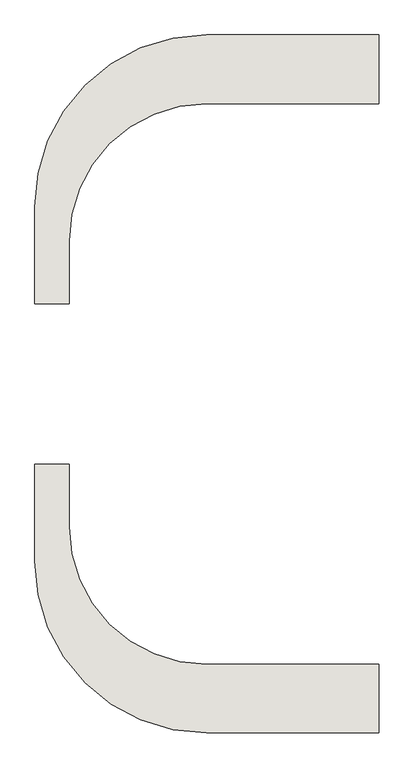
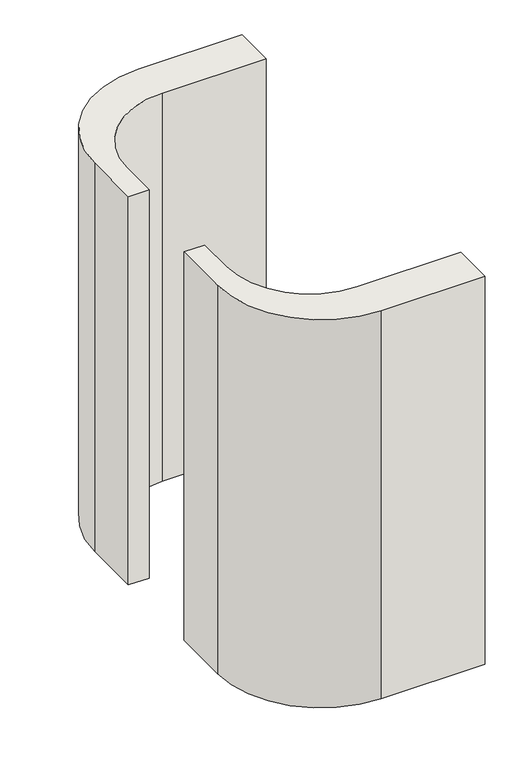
"""IFC4 building model written with IfcOpenShell, lengths in millimetres: wall geometry, Murs 1 : Murs 1."""

from ifc_helpers import new_model, si_unit, frame, origin, place, context, project, spatial, polyline, circle_curve, source, transform, mapped, element, save
from ifc_brep_helpers import plane_surface, cylinder_surface, revolved_surface, advanced_brep


def wall_421f56db(model_context):
    return source(origin(), model_context, "Body", "AdvancedBrep", [
        advanced_brep(
        [(-3226.9983846, -1250.6566666, 3871.8727639), (-3226.9983846, -950.6566667, 3871.8727639), (-3982.5449051, -950.6566667, 3871.8727639), (-4732.5449041, -1700.6566658, 3871.8727639), (-4732.5449041, -2125.6566689, 3871.8727639), (-4582.5449037, -2125.6566689, 3871.8727639), (-4582.5449037, -1850.6566679, 3871.8727639), (-3982.5449024, -1250.6566666, 3871.8727639), (-3226.9983846, -1250.6566666, 893.3082742), (-3982.5449024, -1250.6566666, 893.3082742), (-4582.5449037, -1850.6566679, 893.3082742), (-4582.5449037, -2125.6566689, 893.3082742), (-4732.5449041, -2125.6566689, 893.3082742), (-4732.5449041, -1700.6566658, 893.3082742), (-3982.5449051, -950.6566667, 893.3082742), (-3226.9983846, -950.6566667, 893.3082742)],
        [
            (0, 1),
            (1, 2),
            (2, 3, circle_curve(frame((-3982.5449051, -1700.6566658, 3871.8727639), z_axis=(0.0, 0.0, 1.0), x_axis=(0.0, 1.0, 0.0)), 749.999999)),
            (3, 4),
            (4, 5),
            (5, 6),
            (6, 7, circle_curve(frame((-3982.5449024, -1850.6566679, 3871.8727639), z_axis=(0.0, 0.0, -1.0), x_axis=(0.0, 1.0, 0.0)), 600.0000013)),
            (7, 0),
            (8, 9),
            (9, 10, circle_curve(frame((-3982.5449024, -1850.6566679, 893.3082742), z_axis=(0.0, 0.0, 1.0), x_axis=(0.0, 1.0, 0.0)), 600.0000013)),
            (10, 11),
            (11, 12),
            (12, 13),
            (13, 14, circle_curve(frame((-3982.5449051, -1700.6566658, 893.3082742), z_axis=(0.0, 0.0, -1.0), x_axis=(0.0, 1.0, 0.0)), 749.999999)),
            (14, 15),
            (15, 8),
            (0, 8),
            (15, 1),
            (14, 2),
            (13, 3),
            (12, 4),
            (11, 5),
            (10, 6),
            (9, 7),
        ],
        [
            plane_surface(frame((-3226.9983846, -1250.6566666, 3871.8727639), z_axis=(0.0, 0.0, 1.0), x_axis=(0.0, 1.0, 0.0))),
            plane_surface(frame((-3226.9983846, -1250.6566666, 893.3082742), z_axis=(0.0, 0.0, -1.0), x_axis=(0.0, -1.0, 0.0))),
            plane_surface(frame((-3226.9983846, -1250.6566666, 3871.8727639), z_axis=(1.0, 0.0, 0.0), x_axis=(0.0, 0.0, -1.0))),
            plane_surface(frame((-3226.9983846, -950.6566667, 3871.8727639), z_axis=(0.0, 1.0, 0.0), x_axis=(0.0, 0.0, -1.0))),
            cylinder_surface(frame((-3982.5449051, -1700.6566658, 893.3082742), z_axis=(0.0, 0.0, 1.0), x_axis=(0.0, 1.0, 0.0)), 749.999999),
            plane_surface(frame((-4732.5449041, -1700.6566658, 3871.8727639), z_axis=(-1.0, 0.0, 0.0), x_axis=(0.0, 0.0, -1.0))),
            plane_surface(frame((-4732.5449041, -2125.6566689, 3871.8727639), z_axis=(0.0, -1.0, 0.0), x_axis=(0.0, 0.0, -1.0))),
            plane_surface(frame((-4582.5449037, -2125.6566689, 3871.8727639), z_axis=(1.0, 0.0, 0.0), x_axis=(0.0, 0.0, -1.0))),
            revolved_surface(polyline([(-3982.5449024, -1250.6566665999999, 893.3082742), (-3982.5449024, -1250.6566665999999, 3871.8727639)]), (-3982.5449024, -1850.6566679, 893.3082742), (0.0, 0.0, -1.0)),
            plane_surface(frame((-3982.5449024, -1250.6566666, 3871.8727639), z_axis=(0.0, -1.0, 0.0), x_axis=(0.0, 0.0, -1.0))),
        ],
        [
            (0, [[1, 2, 3, 4, 5, 6, 7, 8]]),
            (1, [[9, 10, 11, 12, 13, 14, 15, 16]]),
            (2, [[-1, 17, -16, 18]]),
            (3, [[-2, -18, -15, 19]]),
            (4, [[-3, -19, -14, 20]]),
            (5, [[-4, -20, -13, 21]]),
            (6, [[-5, -21, -12, 22]]),
            (7, [[-6, -22, -11, 23]]),
            (8, [[-7, -23, -10, 24]]),
            (9, [[-8, -24, -9, -17]]),
        ],
    ),
        advanced_brep(
        [(-3982.5449019, -3700.6566667, 3871.8727639), (-4582.5449037, -3100.656665, 3871.8727639), (-4582.5449037, -2825.6566621, 3871.8727639), (-4732.5449059, -2825.6566621, 3871.8727639), (-4732.5449059, -3250.6566678, 3871.8727639), (-3982.5449097, -4000.6566661, 3871.8727639), (-3226.9983901, -4000.6566675, 3871.8727639), (-3226.9983901, -3700.6566667, 3871.8727639), (-3982.5449019, -3700.6566667, 893.3082742), (-3226.9983901, -3700.6566667, 893.3082742), (-3226.9983901, -4000.6566675, 893.3082742), (-3982.5449097, -4000.6566675, 893.3082742), (-4732.5449059, -3250.6566678, 893.3082742), (-4732.5449059, -2825.6566621, 893.3082742), (-4582.5449037, -2825.6566621, 893.3082742), (-4582.5449037, -3100.656665, 893.3082742)],
        [
            (0, 1, circle_curve(frame((-3982.5449019, -3100.656665, 3871.8727639), z_axis=(0.0, 0.0, -1.0), x_axis=(0.0, 1.0, 0.0)), 600.0000018)),
            (1, 2),
            (2, 3),
            (3, 4),
            (4, 5, circle_curve(frame((-3982.5449076, -3250.6566678, 3871.8727639), z_axis=(0.0, 0.0, 1.0), x_axis=(0.0, 1.0, 0.0)), 749.9999983)),
            (5, 6),
            (6, 7),
            (7, 0),
            (8, 9),
            (9, 10),
            (10, 11),
            (11, 12, circle_curve(frame((-3982.5449076, -3250.6566678, 893.3082742), z_axis=(0.0, 0.0, -1.0), x_axis=(0.0, 1.0, 0.0)), 749.9999983)),
            (12, 13),
            (13, 14),
            (14, 15),
            (15, 8, circle_curve(frame((-3982.5449019, -3100.656665, 893.3082742), z_axis=(0.0, 0.0, 1.0), x_axis=(0.0, 1.0, 0.0)), 600.0000018)),
            (0, 8),
            (15, 1),
            (14, 2),
            (13, 3),
            (12, 4),
            (11, 5),
            (10, 6),
            (9, 7),
        ],
        [
            plane_surface(frame((-3226.9983846, -1250.6566666, 3871.8727639), z_axis=(0.0, 0.0, 1.0), x_axis=(0.0, 1.0, 0.0))),
            plane_surface(frame((-3226.9983846, -1250.6566666, 893.3082742), z_axis=(0.0, 0.0, -1.0), x_axis=(0.0, -1.0, 0.0))),
            revolved_surface(polyline([(-3982.5449019, -2500.6566632, 893.3082742), (-3982.5449019, -2500.6566632, 3871.8727639)]), (-3982.5449019, -3100.656665, 0.0), (0.0, 0.0, -1.0)),
            plane_surface(frame((-4582.5449037, -3100.656665, 3871.8727639), z_axis=(1.0, 0.0, 0.0), x_axis=(0.0, 0.0, -1.0))),
            plane_surface(frame((-4582.5449037, -2825.6566621, 3871.8727639), z_axis=(0.0, 1.0, 0.0), x_axis=(0.0, 0.0, -1.0))),
            plane_surface(frame((-4732.5449059, -2825.6566621, 3871.8727639), z_axis=(-1.0, 0.0, 0.0), x_axis=(0.0, 0.0, -1.0))),
            cylinder_surface(frame((-3982.5449076, -3250.6566678, 0.0), z_axis=(0.0, 0.0, 1.0), x_axis=(0.0, 1.0, 0.0)), 749.9999983),
            plane_surface(frame((-3982.5449097, -4000.6566675, 3871.8727639), z_axis=(0.0, -1.0, 0.0), x_axis=(0.0, 0.0, -1.0))),
            plane_surface(frame((-3226.9983901, -4000.6566675, 3871.8727639), z_axis=(1.0, 0.0, 0.0), x_axis=(0.0, 0.0, -1.0))),
            plane_surface(frame((-3226.9983901, -3700.6566667, 3871.8727639), z_axis=(0.0, 1.0, 0.0), x_axis=(0.0, 0.0, -1.0))),
        ],
        [
            (0, [[1, 2, 3, 4, 5, 6, 7, 8]]),
            (1, [[9, 10, 11, 12, 13, 14, 15, 16]]),
            (2, [[-1, 17, -16, 18]]),
            (3, [[-2, -18, -15, 19]]),
            (4, [[-3, -19, -14, 20]]),
            (5, [[-4, -20, -13, 21]]),
            (6, [[-5, -21, -12, 22]]),
            (7, [[-6, -22, -11, 23]]),
            (8, [[-7, -23, -10, 24]]),
            (9, [[-8, -24, -9, -17]]),
        ],
    ),
    ])


if __name__ == "__main__":
    model = new_model("IFC4")
    model_context = context("Model", 3, world=origin())
    ifc_project = project(units=[si_unit("LENGTHUNIT", "METRE", prefix="MILLI")], contexts=[model_context])
    site = spatial("IfcSite", under=ifc_project)
    building = spatial("IfcBuilding", under=site)
    placement = place(None, origin())
    wall_shape = wall_421f56db(model_context)
    element("IfcWall", 1, ObjectType="Murs 1 : Murs 1", at=placement, inside=building, context=model_context, shape_type="MappedRepresentation", body=[
        mapped(wall_shape, transform((0.0, 0.0, 0.0), x_axis=(1.0, 0.0, 0.0), y_axis=(0.0, 1.0, 0.0), z_axis=(0.0, 0.0, 1.0))),
    ])
    save(model, "model.ifc")
